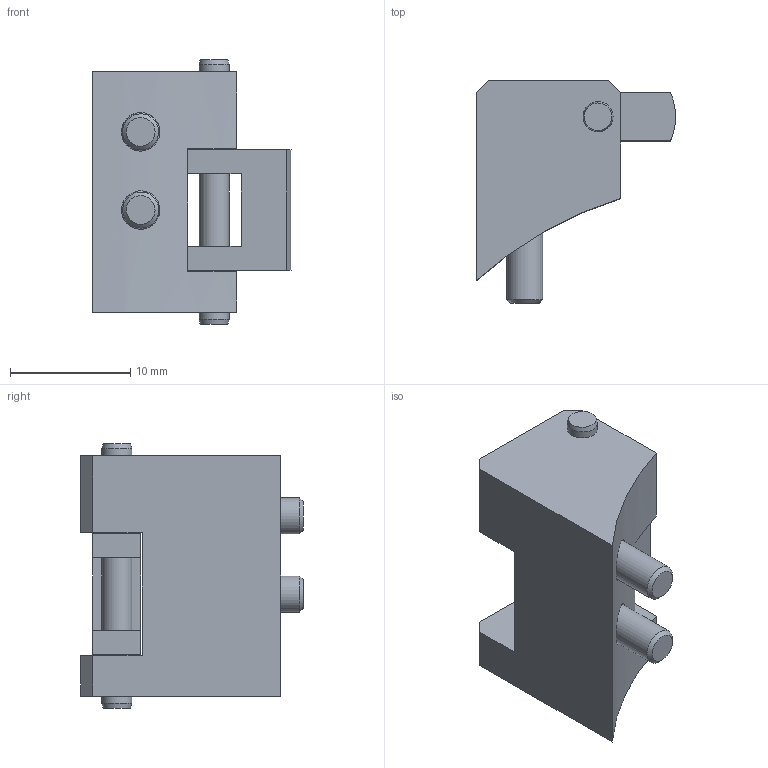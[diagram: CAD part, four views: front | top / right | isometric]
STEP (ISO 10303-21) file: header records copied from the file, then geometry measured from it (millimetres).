
FILE_DESCRIPTION(/* description */ (''),/* implementation_level */ '2;1');
FILE_NAME(/* name */ '\\dc01\daten\CAD\Standard\Daten\3D-Datenbank\SWS\4 - 3D-CAD-Daten SWS 050-160\SWS063\Step-Daten\EG-SWS063-VS2.stp',/* time_stamp */ '2016-11-11T11:27:21+01:00',/* author */ ('ysplieth'),/* organization */ (''),/* preprocessor_version */ 'ST-DEVELOPER v15.2',/* originating_system */ 'Autodesk Inventor 2014',/* authorisation */ '');
FILE_SCHEMA (('AUTOMOTIVE_DESIGN { 1 0 10303 214 3 1 1 }'));
Length unit declared in the file: millimetre
Products named in the file (1): Bauteil1
Bounding box: 16.53 x 18.5 x 22 mm (x, y, z)
Volume: 2340.7 mm3; surface area: 2259.4 mm2
Topology: 1 solids, 1 shells, 71 faces, 172 edges, 112 vertices
Faces by surface type: plane 46, cylinder 15, cone 6, torus 4
Full cylindrical faces by diameter (mm): 2.5 x5, 3 x2, 3.2 x2, 5.5 x2, 6 x2
Entity records: 2040 total; most frequent: CARTESIAN_POINT 407, DIRECTION 309, ORIENTED_EDGE 282, EDGE_CURVE 141, AXIS2_PLACEMENT_3D 110, EDGE_LOOP 107, VERTEX_POINT 104, LINE 89
